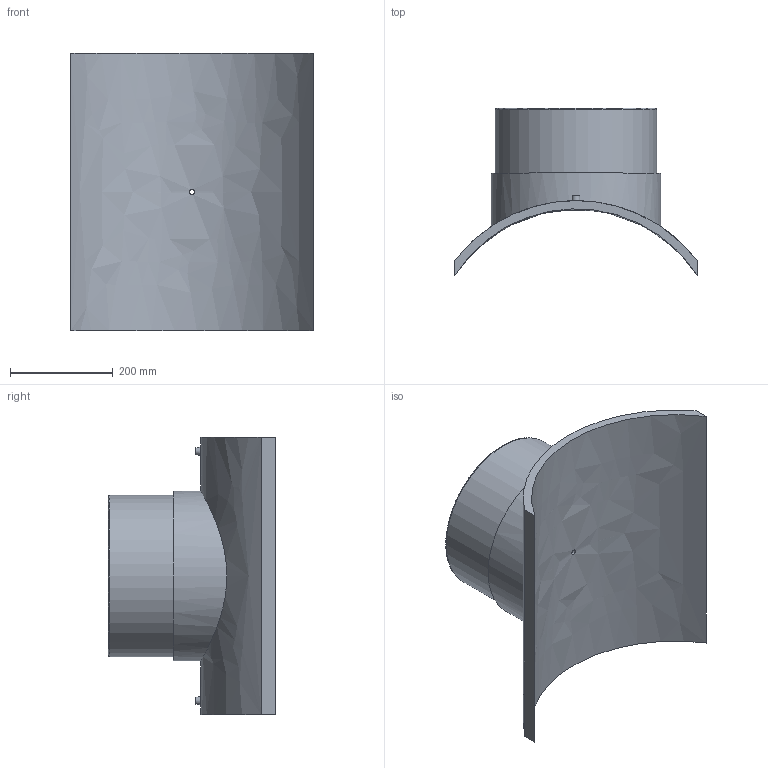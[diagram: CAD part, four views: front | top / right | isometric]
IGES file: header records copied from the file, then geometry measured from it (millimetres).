
Global section: file name: 495803560315T; native system: Autodesk Inventor 2019; preprocessor: unknown; author: KIM; date: 20240404.114920; units: millimetre
Bounding box: 472 x 325.32 x 540 mm (x, y, z)
Volume: 10966930 mm3; surface area: 1011200.6 mm2
Topology: 1 solids, 1 shells, 29 faces, 60 edges, 43 vertices
Faces by surface type: bspline 29
